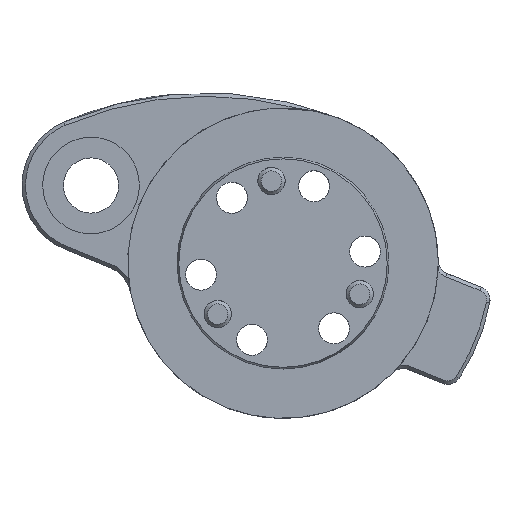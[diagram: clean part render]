
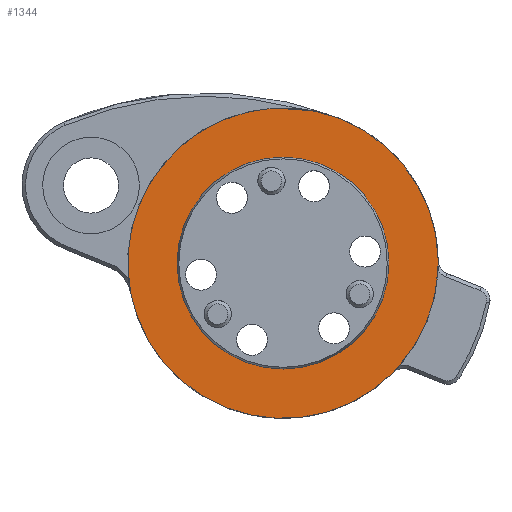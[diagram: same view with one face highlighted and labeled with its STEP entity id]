
A CAD part, left-side view. The second image highlights one B-rep face of the part: STEP entity #1344.
In plain terms, the highlighted planar face has unit normal (-1, 0, 0).
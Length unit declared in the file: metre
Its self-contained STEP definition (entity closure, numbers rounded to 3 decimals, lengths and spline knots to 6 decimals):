
#187=PLANE('',#1471);
#244=ORIENTED_EDGE('',*,*,#617,.F.);
#245=ORIENTED_EDGE('',*,*,#618,.F.);
#246=ORIENTED_EDGE('',*,*,#619,.F.);
#247=ORIENTED_EDGE('',*,*,#620,.F.);
#248=ORIENTED_EDGE('',*,*,#621,.F.);
#617=EDGE_CURVE('',#806,#806,#934,.F.);
#618=EDGE_CURVE('',#807,#808,#935,.T.);
#619=EDGE_CURVE('',#809,#807,#936,.T.);
#620=EDGE_CURVE('',#810,#809,#937,.T.);
#621=EDGE_CURVE('',#808,#810,#938,.T.);
#806=VERTEX_POINT('',#2179);
#807=VERTEX_POINT('',#2181);
#808=VERTEX_POINT('',#2182);
#809=VERTEX_POINT('',#2184);
#810=VERTEX_POINT('',#2186);
#934=CIRCLE('',#1472,0.015349);
#935=CIRCLE('',#1473,0.0225);
#936=CIRCLE('',#1474,0.0225);
#937=CIRCLE('',#1475,0.0225);
#938=CIRCLE('',#1476,0.0225);
#1037=EDGE_LOOP('',(#244));
#1038=EDGE_LOOP('',(#245,#246,#247,#248));
#1178=FACE_BOUND('',#1037,.T.);
#1179=FACE_BOUND('',#1038,.T.);
#1344=ADVANCED_FACE('',(#1178,#1179),#187,.T.);
#1471=AXIS2_PLACEMENT_3D('',#2177,#1708,#1709);
#1472=AXIS2_PLACEMENT_3D('',#2178,#1710,#1711);
#1473=AXIS2_PLACEMENT_3D('',#2180,#1712,#1713);
#1474=AXIS2_PLACEMENT_3D('',#2183,#1714,#1715);
#1475=AXIS2_PLACEMENT_3D('',#2185,#1716,#1717);
#1476=AXIS2_PLACEMENT_3D('',#2187,#1718,#1719);
#1708=DIRECTION('',(-1.,0.,0.));
#1709=DIRECTION('',(0.,0.927,0.375));
#1710=DIRECTION('',(1.,0.,0.));
#1711=DIRECTION('',(0.,0.,-1.));
#1712=DIRECTION('',(1.,0.,0.));
#1713=DIRECTION('',(0.,0.927,0.375));
#1714=DIRECTION('',(1.,0.,0.));
#1715=DIRECTION('',(0.,-0.375,0.927));
#1716=DIRECTION('',(1.,0.,0.));
#1717=DIRECTION('',(0.,0.927,0.375));
#1718=DIRECTION('',(1.,0.,0.));
#1719=DIRECTION('',(0.,-0.709,-0.705));
#2177=CARTESIAN_POINT('',(-0.1124,-0.003,-0.553));
#2178=CARTESIAN_POINT('',(-0.1124,-0.003,-0.553));
#2179=CARTESIAN_POINT('',(-0.1124,-0.003,-0.568349));
#2180=CARTESIAN_POINT('',(-0.1124,-0.003,-0.553));
#2181=CARTESIAN_POINT('',(-0.1124,-0.025498,-0.55268));
#2182=CARTESIAN_POINT('',(-0.1124,-0.018961,-0.568858));
#2183=CARTESIAN_POINT('',(-0.1124,-0.003,-0.553));
#2184=CARTESIAN_POINT('',(-0.1124,-0.011429,-0.532138));
#2185=CARTESIAN_POINT('',(-0.1124,-0.003,-0.553));
#2186=CARTESIAN_POINT('',(-0.1124,0.019082,-0.557315));
#2187=CARTESIAN_POINT('',(-0.1124,-0.003,-0.553));
